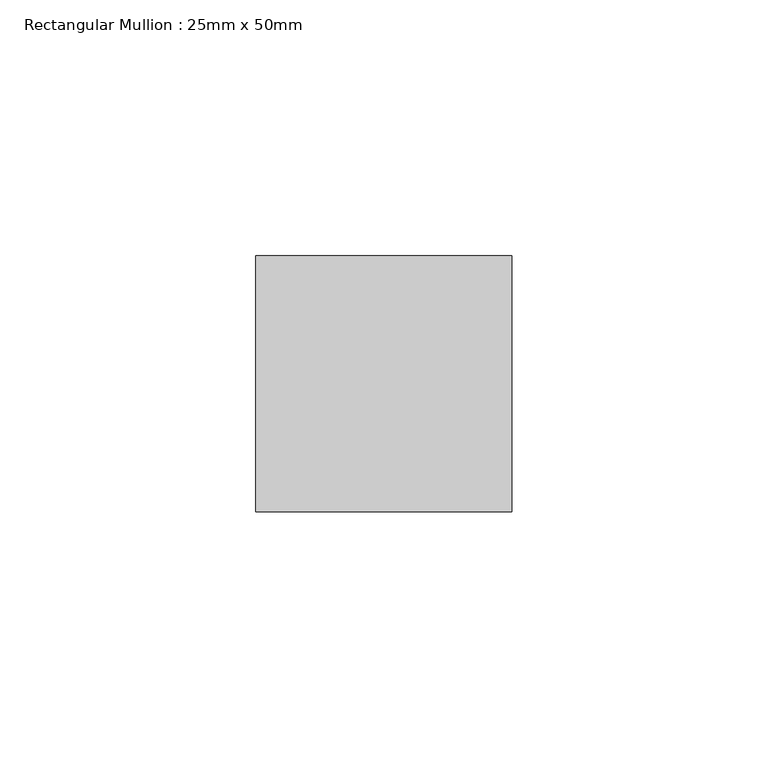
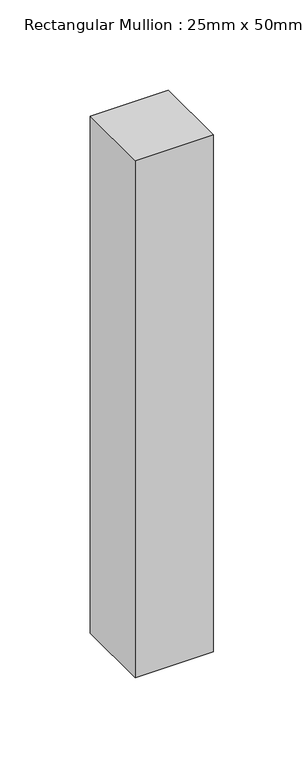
"""IFC4 building model written with IfcOpenShell, lengths in millimetres: member geometry, Rectangular Mullion : 25mm x 50mm."""

from ifc_helpers import new_model, si_unit, frame, origin, place, context, project, spatial, polyline, outline, extrude, source, transform, mapped, element, save


def rectangular_mullion_25mm_x_50mm_486b2448(model_context):
    return source(origin(), model_context, "Body", "SweptSolid", [
        extrude(outline(polyline([(0.0, 25.0), (0.0, -25.0), (-50.0, -25.0), (-50.0, 25.0), (0.0, 25.0)])), frame((0.0, 0.0, -350.0), z_axis=(0.0, 0.0, 1.0), x_axis=(1.0, 0.0, 0.0)), (0.0, 0.0, 1.0), 350.0),
    ])


if __name__ == "__main__":
    model = new_model("IFC4")
    model_context = context("Model", 3, world=origin())
    ifc_project = project(units=[si_unit("LENGTHUNIT", "METRE", prefix="MILLI")], contexts=[model_context])
    site = spatial("IfcSite", under=ifc_project)
    building = spatial("IfcBuilding", under=site)
    placement = place(None, origin())
    rectangular_mullion_25mm_x_50mm_shape = rectangular_mullion_25mm_x_50mm_486b2448(model_context)
    element("IfcMember", 1, ObjectType="Rectangular Mullion : 25mm x 50mm", at=placement, inside=building, context=model_context, shape_type="MappedRepresentation", body=[
        mapped(rectangular_mullion_25mm_x_50mm_shape, transform((0.0, 0.0, 0.0), x_axis=(1.0, 0.0, 0.0), y_axis=(0.0, 1.0, 0.0), z_axis=(0.0, 0.0, 1.0))),
    ])
    save(model, "model.ifc")
